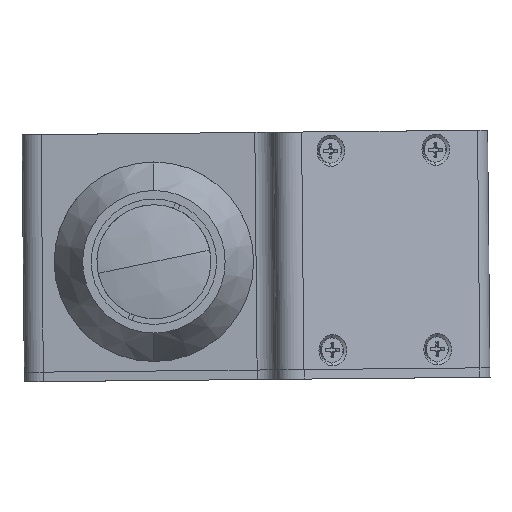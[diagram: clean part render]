
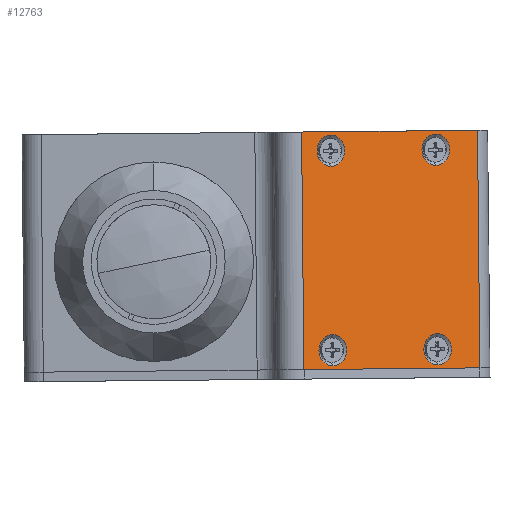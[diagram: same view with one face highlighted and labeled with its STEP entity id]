
A CAD part, left-side view. The second image highlights one B-rep face of the part: STEP entity #12763.
In plain terms, the highlighted planar face has unit normal (-0.883, -0.469, 0.005).
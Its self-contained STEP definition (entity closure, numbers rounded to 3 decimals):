
#32 = CARTESIAN_POINT ( 'NONE',  ( 57.848, -49.95, 2.485 ) ) ;
#121 = VERTEX_POINT ( 'NONE', #4151 ) ;
#255 = VERTEX_POINT ( 'NONE', #2498 ) ;
#380 = CARTESIAN_POINT ( 'NONE',  ( 62.94, -59.29, 26.877 ) ) ;
#530 = DIRECTION ( 'NONE',  ( 0., 0.01, 1. ) ) ;
#588 = EDGE_CURVE ( 'NONE', #8851, #7868, #2071, .T. ) ;
#748 = ORIENTED_EDGE ( 'NONE', *, *, #8338, .F. ) ;
#760 = VERTEX_POINT ( 'NONE', #3225 ) ;
#962 = DIRECTION ( 'NONE',  ( 0., 0.01, 1. ) ) ;
#1147 = CARTESIAN_POINT ( 'NONE',  ( 51.203, -37.25, 23.363 ) ) ;
#1168 = CARTESIAN_POINT ( 'NONE',  ( 67.635, -68.355, 2.664 ) ) ;
#1240 = DIRECTION ( 'NONE',  ( 0., 0.01, 1. ) ) ;
#1329 = ORIENTED_EDGE ( 'NONE', *, *, #2261, .F. ) ;
#1383 = CARTESIAN_POINT ( 'NONE',  ( 62.94, -59.698, -15.121 ) ) ;
#1412 = EDGE_LOOP ( 'NONE', ( #2144, #2685 ) ) ;
#1436 = CIRCLE ( 'NONE', #4123, 3.3 ) ;
#1528 = VERTEX_POINT ( 'NONE', #380 ) ;
#1590 = AXIS2_PLACEMENT_3D ( 'NONE', #10106, #3143, #11265 ) ;
#1596 = CIRCLE ( 'NONE', #3846, 3.3 ) ;
#1911 = VECTOR ( 'NONE', #4088, 1000. ) ;
#2071 = LINE ( 'NONE', #4427, #7913 ) ;
#2082 = AXIS2_PLACEMENT_3D ( 'NONE', #14878, #7978, #962 ) ;
#2134 = EDGE_CURVE ( 'NONE', #14879, #11162, #12384, .T. ) ;
#2144 = ORIENTED_EDGE ( 'NONE', *, *, #12145, .F. ) ;
#2261 = EDGE_CURVE ( 'NONE', #15047, #1528, #13278, .T. ) ;
#2356 = DIRECTION ( 'NONE',  ( 0., 0.01, 1. ) ) ;
#2419 = EDGE_LOOP ( 'NONE', ( #2622, #748 ) ) ;
#2498 = CARTESIAN_POINT ( 'NONE',  ( 51.203, -37.69, -21.935 ) ) ;
#2602 = VERTEX_POINT ( 'NONE', #4380 ) ;
#2622 = ORIENTED_EDGE ( 'NONE', *, *, #2924, .F. ) ;
#2685 = ORIENTED_EDGE ( 'NONE', *, *, #14921, .F. ) ;
#2924 = EDGE_CURVE ( 'NONE', #5438, #255, #1436, .T. ) ;
#3143 = DIRECTION ( 'NONE',  ( -0.883, -0.469, 0.005 ) ) ;
#3225 = CARTESIAN_POINT ( 'NONE',  ( 51.203, -37.218, 26.663 ) ) ;
#3735 = DIRECTION ( 'NONE',  ( -0.883, -0.469, 0.005 ) ) ;
#3846 = AXIS2_PLACEMENT_3D ( 'NONE', #1147, #9316, #2356 ) ;
#4088 = DIRECTION ( 'NONE',  ( 0.469, -0.883, 0.009 ) ) ;
#4123 = AXIS2_PLACEMENT_3D ( 'NONE', #14464, #7554, #530 ) ;
#4151 = CARTESIAN_POINT ( 'NONE',  ( 67.635, -68.112, 27.663 ) ) ;
#4380 = CARTESIAN_POINT ( 'NONE',  ( 47.945, -31.084, 27.303 ) ) ;
#4427 = CARTESIAN_POINT ( 'NONE',  ( 70.876, -74.693, -22.276 ) ) ;
#4573 = AXIS2_PLACEMENT_3D ( 'NONE', #13416, #6490, #14570 ) ;
#4684 = DIRECTION ( 'NONE',  ( 0., 0.01, 1. ) ) ;
#4698 = CARTESIAN_POINT ( 'NONE',  ( 51.203, -37.625, -15.335 ) ) ;
#4892 = AXIS2_PLACEMENT_3D ( 'NONE', #13621, #6692, #14776 ) ;
#4995 = AXIS2_PLACEMENT_3D ( 'NONE', #6984, #15062, #8151 ) ;
#5161 = CIRCLE ( 'NONE', #4892, 3.3 ) ;
#5189 = CIRCLE ( 'NONE', #1590, 3.3 ) ;
#5438 = VERTEX_POINT ( 'NONE', #4698 ) ;
#5460 = CIRCLE ( 'NONE', #4573, 3.3 ) ;
#5487 = VECTOR ( 'NONE', #4684, 1000. ) ;
#5506 = DIRECTION ( 'NONE',  ( -0.469, 0.883, -0.009 ) ) ;
#5575 = CARTESIAN_POINT ( 'NONE',  ( 47.945, -31.327, 2.304 ) ) ;
#5638 = FACE_BOUND ( 'NONE', #9849, .T. ) ;
#5789 = ORIENTED_EDGE ( 'NONE', *, *, #12054, .T. ) ;
#5842 = VECTOR ( 'NONE', #7896, 1000. ) ;
#6490 = DIRECTION ( 'NONE',  ( -0.883, -0.469, 0.005 ) ) ;
#6538 = ORIENTED_EDGE ( 'NONE', *, *, #14319, .F. ) ;
#6692 = DIRECTION ( 'NONE',  ( -0.883, -0.469, 0.005 ) ) ;
#6770 = ORIENTED_EDGE ( 'NONE', *, *, #11641, .T. ) ;
#6984 = CARTESIAN_POINT ( 'NONE',  ( 62.94, -59.73, -18.421 ) ) ;
#7074 = PLANE ( 'NONE',  #12565 ) ;
#7429 = EDGE_LOOP ( 'NONE', ( #14697, #9985 ) ) ;
#7554 = DIRECTION ( 'NONE',  ( -0.883, -0.469, 0.005 ) ) ;
#7868 = VERTEX_POINT ( 'NONE', #10169 ) ;
#7896 = DIRECTION ( 'NONE',  ( 0., -0.01, -1. ) ) ;
#7913 = VECTOR ( 'NONE', #5506, 1000. ) ;
#7978 = DIRECTION ( 'NONE',  ( -0.883, -0.469, 0.005 ) ) ;
#8124 = LINE ( 'NONE', #12167, #1911 ) ;
#8151 = DIRECTION ( 'NONE',  ( 0., 0.01, 1. ) ) ;
#8238 = DIRECTION ( 'NONE',  ( -0.883, -0.469, 0.005 ) ) ;
#8338 = EDGE_CURVE ( 'NONE', #255, #5438, #5460, .T. ) ;
#8351 = FACE_BOUND ( 'NONE', #1412, .T. ) ;
#8550 = LINE ( 'NONE', #1168, #5487 ) ;
#8851 = VERTEX_POINT ( 'NONE', #13107 ) ;
#8906 = LINE ( 'NONE', #5575, #5842 ) ;
#9316 = DIRECTION ( 'NONE',  ( -0.883, -0.469, 0.005 ) ) ;
#9849 = EDGE_LOOP ( 'NONE', ( #14681, #1329 ) ) ;
#9985 = ORIENTED_EDGE ( 'NONE', *, *, #2134, .F. ) ;
#10106 = CARTESIAN_POINT ( 'NONE',  ( 51.203, -37.25, 23.363 ) ) ;
#10158 = CIRCLE ( 'NONE', #2082, 3.3 ) ;
#10169 = CARTESIAN_POINT ( 'NONE',  ( 47.945, -31.569, -22.694 ) ) ;
#10346 = EDGE_CURVE ( 'NONE', #1528, #15047, #5161, .T. ) ;
#10435 = AXIS2_PLACEMENT_3D ( 'NONE', #10682, #3735, #11834 ) ;
#10482 = EDGE_LOOP ( 'NONE', ( #13005, #6770, #6538, #5789 ) ) ;
#10682 = CARTESIAN_POINT ( 'NONE',  ( 62.94, -59.322, 23.577 ) ) ;
#11107 = CARTESIAN_POINT ( 'NONE',  ( 62.94, -59.762, -21.721 ) ) ;
#11162 = VERTEX_POINT ( 'NONE', #1383 ) ;
#11265 = DIRECTION ( 'NONE',  ( 0., 0.01, 1. ) ) ;
#11422 = FACE_BOUND ( 'NONE', #7429, .T. ) ;
#11641 = EDGE_CURVE ( 'NONE', #8851, #121, #8550, .T. ) ;
#11793 = FACE_OUTER_BOUND ( 'NONE', #10482, .T. ) ;
#11834 = DIRECTION ( 'NONE',  ( 0., 0.01, 1. ) ) ;
#12054 = EDGE_CURVE ( 'NONE', #2602, #7868, #8906, .T. ) ;
#12145 = EDGE_CURVE ( 'NONE', #760, #13755, #1596, .T. ) ;
#12167 = CARTESIAN_POINT ( 'NONE',  ( 70.876, -74.208, 27.722 ) ) ;
#12384 = CIRCLE ( 'NONE', #4995, 3.3 ) ;
#12565 = AXIS2_PLACEMENT_3D ( 'NONE', #32, #8238, #1240 ) ;
#12660 = CARTESIAN_POINT ( 'NONE',  ( 62.94, -59.354, 20.277 ) ) ;
#12763 = ADVANCED_FACE ( 'NONE', ( #5638, #11422, #14848, #8351, #11793 ), #7074, .T. ) ;
#13005 = ORIENTED_EDGE ( 'NONE', *, *, #588, .F. ) ;
#13087 = EDGE_CURVE ( 'NONE', #11162, #14879, #10158, .T. ) ;
#13107 = CARTESIAN_POINT ( 'NONE',  ( 67.635, -68.598, -22.335 ) ) ;
#13278 = CIRCLE ( 'NONE', #10435, 3.3 ) ;
#13296 = CARTESIAN_POINT ( 'NONE',  ( 51.203, -37.282, 20.063 ) ) ;
#13416 = CARTESIAN_POINT ( 'NONE',  ( 51.203, -37.657, -18.635 ) ) ;
#13621 = CARTESIAN_POINT ( 'NONE',  ( 62.94, -59.322, 23.577 ) ) ;
#13755 = VERTEX_POINT ( 'NONE', #13296 ) ;
#14319 = EDGE_CURVE ( 'NONE', #2602, #121, #8124, .T. ) ;
#14464 = CARTESIAN_POINT ( 'NONE',  ( 51.203, -37.657, -18.635 ) ) ;
#14570 = DIRECTION ( 'NONE',  ( 0., 0.01, 1. ) ) ;
#14681 = ORIENTED_EDGE ( 'NONE', *, *, #10346, .F. ) ;
#14697 = ORIENTED_EDGE ( 'NONE', *, *, #13087, .F. ) ;
#14776 = DIRECTION ( 'NONE',  ( 0., 0.01, 1. ) ) ;
#14848 = FACE_BOUND ( 'NONE', #2419, .T. ) ;
#14878 = CARTESIAN_POINT ( 'NONE',  ( 62.94, -59.73, -18.421 ) ) ;
#14879 = VERTEX_POINT ( 'NONE', #11107 ) ;
#14921 = EDGE_CURVE ( 'NONE', #13755, #760, #5189, .T. ) ;
#15047 = VERTEX_POINT ( 'NONE', #12660 ) ;
#15062 = DIRECTION ( 'NONE',  ( -0.883, -0.469, 0.005 ) ) ;
